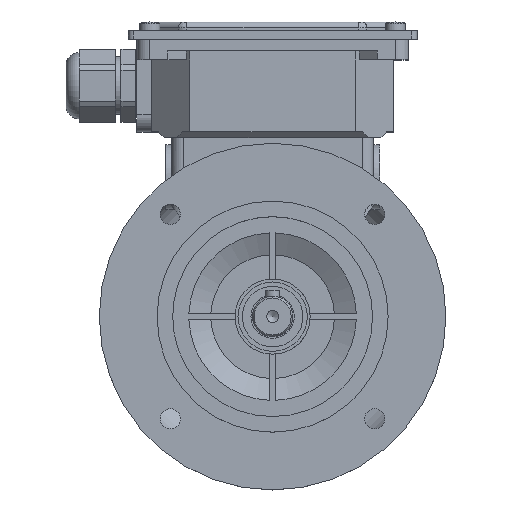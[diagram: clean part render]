
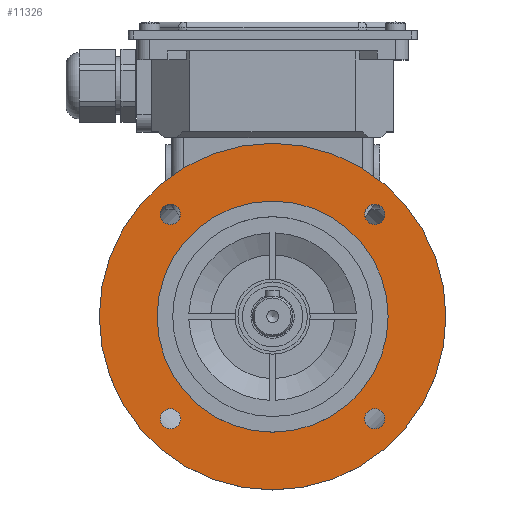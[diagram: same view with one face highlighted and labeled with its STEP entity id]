
A CAD part, top view. The second image highlights one B-rep face of the part: STEP entity #11326.
In plain terms, the highlighted planar face has unit normal (0, 0, 1).
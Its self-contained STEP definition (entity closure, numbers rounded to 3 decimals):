
#2375=FACE_BOUND('',#3774,.T.);
#2376=FACE_BOUND('',#3775,.T.);
#2377=FACE_BOUND('',#3776,.T.);
#2378=FACE_BOUND('',#3777,.T.);
#2379=FACE_BOUND('',#3778,.T.);
#2380=FACE_BOUND('',#3779,.T.);
#3774=EDGE_LOOP('',(#9450));
#3775=EDGE_LOOP('',(#9451));
#3776=EDGE_LOOP('',(#9452));
#3777=EDGE_LOOP('',(#9453));
#3778=EDGE_LOOP('',(#9454));
#3779=EDGE_LOOP('',(#9455));
#4293=CIRCLE('',#12213,60.);
#4327=CIRCLE('',#12280,40.);
#4329=CIRCLE('',#12286,3.5);
#4330=CIRCLE('',#12288,3.5);
#4331=CIRCLE('',#12290,3.5);
#4332=CIRCLE('',#12292,3.5);
#5191=VERTEX_POINT('',#18588);
#5251=VERTEX_POINT('',#18825);
#5253=VERTEX_POINT('',#18833);
#5254=VERTEX_POINT('',#18836);
#5255=VERTEX_POINT('',#18839);
#5256=VERTEX_POINT('',#18842);
#6631=EDGE_CURVE('',#5191,#5191,#4293,.T.);
#6723=EDGE_CURVE('',#5251,#5251,#4327,.T.);
#6725=EDGE_CURVE('',#5253,#5253,#4329,.T.);
#6726=EDGE_CURVE('',#5254,#5254,#4330,.T.);
#6727=EDGE_CURVE('',#5255,#5255,#4331,.T.);
#6728=EDGE_CURVE('',#5256,#5256,#4332,.T.);
#9450=ORIENTED_EDGE('',*,*,#6728,.T.);
#9451=ORIENTED_EDGE('',*,*,#6727,.T.);
#9452=ORIENTED_EDGE('',*,*,#6726,.T.);
#9453=ORIENTED_EDGE('',*,*,#6725,.T.);
#9454=ORIENTED_EDGE('',*,*,#6631,.F.);
#9455=ORIENTED_EDGE('',*,*,#6723,.F.);
#10759=PLANE('',#12295);
#11326=ADVANCED_FACE('',(#2375,#2376,#2377,#2378,#2379,#2380),#10759,.T.);
#12213=AXIS2_PLACEMENT_3D('',#18589,#14608,#14609);
#12280=AXIS2_PLACEMENT_3D('',#18826,#14778,#14779);
#12286=AXIS2_PLACEMENT_3D('',#18834,#14790,#14791);
#12288=AXIS2_PLACEMENT_3D('',#18837,#14794,#14795);
#12290=AXIS2_PLACEMENT_3D('',#18840,#14798,#14799);
#12292=AXIS2_PLACEMENT_3D('',#18843,#14802,#14803);
#12295=AXIS2_PLACEMENT_3D('',#18849,#14811,#14812);
#14608=DIRECTION('center_axis',(0.,0.,-1.));
#14609=DIRECTION('ref_axis',(0.,1.,0.));
#14778=DIRECTION('center_axis',(0.,0.,1.));
#14779=DIRECTION('ref_axis',(-1.,0.,0.));
#14790=DIRECTION('center_axis',(0.,0.,-1.));
#14791=DIRECTION('ref_axis',(-1.,0.,0.));
#14794=DIRECTION('center_axis',(0.,0.,-1.));
#14795=DIRECTION('ref_axis',(0.,-1.,0.));
#14798=DIRECTION('center_axis',(0.,0.,-1.));
#14799=DIRECTION('ref_axis',(1.,0.,0.));
#14802=DIRECTION('center_axis',(0.,0.,-1.));
#14803=DIRECTION('ref_axis',(0.,1.,0.));
#14811=DIRECTION('center_axis',(0.,0.,1.));
#14812=DIRECTION('ref_axis',(1.,0.,0.));
#18588=CARTESIAN_POINT('',(60.,0.,68.75));
#18589=CARTESIAN_POINT('Origin',(0.,0.,68.75));
#18825=CARTESIAN_POINT('',(40.,0.,68.75));
#18826=CARTESIAN_POINT('Origin',(0.,0.,68.75));
#18833=CARTESIAN_POINT('',(-31.855,35.355,68.75));
#18834=CARTESIAN_POINT('Origin',(-35.355,35.355,68.75));
#18836=CARTESIAN_POINT('',(-35.355,-31.855,68.75));
#18837=CARTESIAN_POINT('Origin',(-35.355,-35.355,68.75));
#18839=CARTESIAN_POINT('',(31.855,-35.355,68.75));
#18840=CARTESIAN_POINT('Origin',(35.355,-35.355,68.75));
#18842=CARTESIAN_POINT('',(35.355,31.855,68.75));
#18843=CARTESIAN_POINT('Origin',(35.355,35.355,68.75));
#18849=CARTESIAN_POINT('Origin',(0.,0.,
68.75));
